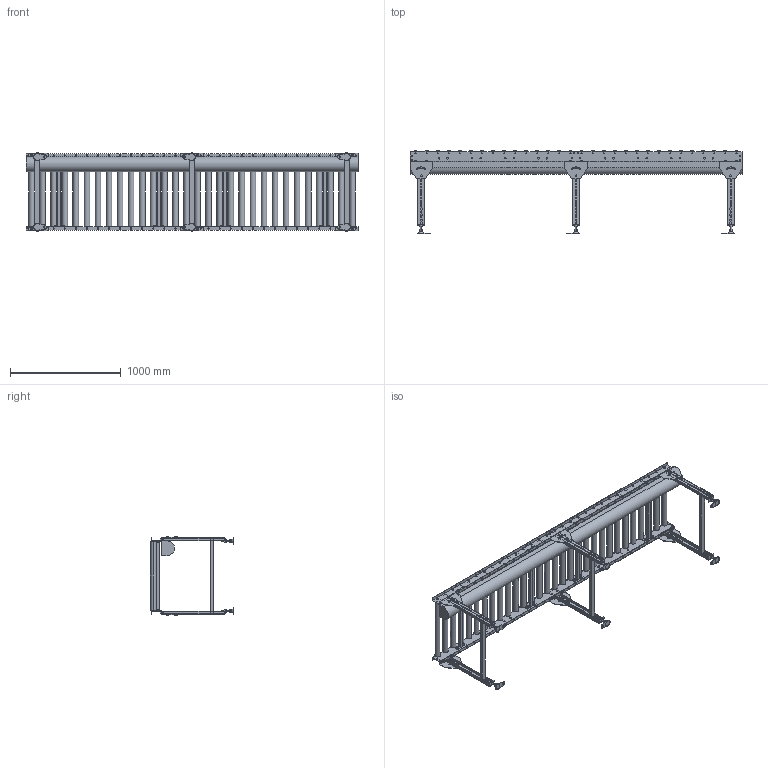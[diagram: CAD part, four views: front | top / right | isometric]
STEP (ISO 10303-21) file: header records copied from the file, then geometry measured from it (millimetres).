
FILE_DESCRIPTION (( 'STEP AP214' ), '1' );
FILE_NAME ('MCD50-ストレート-100P-630.STEP', '2022-08-01T01:57:12', ( '' ), ( '' ), 'SwSTEP 2.0', 'SolidWorks 2017', '' );
FILE_SCHEMA (( 'AUTOMOTIVE_DESIGN' ));
Length unit declared in the file: millimetre
Products named in the file (1): MCD50-ストレート-100P-630
Bounding box: 3000 x 750 x 714.4 mm (x, y, z)
Volume: 87731920.4 mm3; surface area: 7974828.8 mm2
Topology: 28 solids, 74 shells, 3822 faces, 10188 edges, 6472 vertices
Faces by surface type: plane 2493, cylinder 1317, cone 12
Entity records: 162845 total; most frequent: DIRECTION 21380, CARTESIAN_POINT 20879, ORIENTED_EDGE 20376, EDGE_CURVE 10188, AXIS2_PLACEMENT_3D 7381, VECTOR 6618, LINE 6618, VERTEX_POINT 6472
